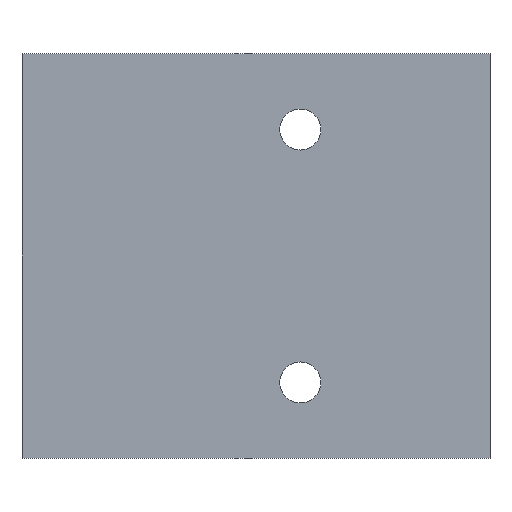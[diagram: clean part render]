
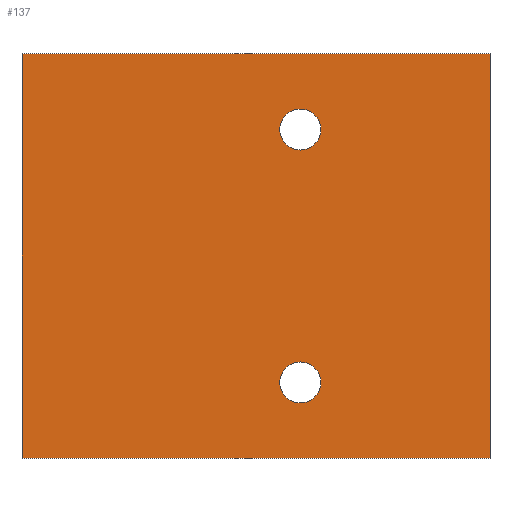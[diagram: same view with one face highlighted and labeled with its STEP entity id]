
A CAD part, front view. The second image highlights one B-rep face of the part: STEP entity #137.
In plain terms, the highlighted planar face has unit normal (0, -1, 0).
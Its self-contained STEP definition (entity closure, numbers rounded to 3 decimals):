
#21 = EDGE_CURVE('',#22,#24,#26,.T.);
#22 = VERTEX_POINT('',#23);
#23 = CARTESIAN_POINT('',(-43.,-38.,-16.));
#24 = VERTEX_POINT('',#25);
#25 = CARTESIAN_POINT('',(-43.,-38.,16.));
#26 = SURFACE_CURVE('',#27,(#31,#43),.PCURVE_S1.);
#27 = LINE('',#28,#29);
#28 = CARTESIAN_POINT('',(-43.,-38.,-16.));
#29 = VECTOR('',#30,1.);
#30 = DIRECTION('',(0.,0.,1.));
#31 = PCURVE('',#32,#37);
#32 = PLANE('',#33);
#33 = AXIS2_PLACEMENT_3D('',#34,#35,#36);
#34 = CARTESIAN_POINT('',(-43.,-38.,-16.));
#35 = DIRECTION('',(-1.,-0.,0.));
#36 = DIRECTION('',(0.,0.,-1.));
#37 = DEFINITIONAL_REPRESENTATION('',(#38),#42);
#38 = LINE('',#39,#40);
#39 = CARTESIAN_POINT('',(-0.,-0.));
#40 = VECTOR('',#41,1.);
#41 = DIRECTION('',(-1.,-0.));
#42 = ( GEOMETRIC_REPRESENTATION_CONTEXT(2)
PARAMETRIC_REPRESENTATION_CONTEXT() REPRESENTATION_CONTEXT('2D SPACE',''
  ) );
#43 = PCURVE('',#44,#49);
#44 = PLANE('',#45);
#45 = AXIS2_PLACEMENT_3D('',#46,#47,#48);
#46 = CARTESIAN_POINT('',(-43.,-38.,-16.));
#47 = DIRECTION('',(-0.,1.,-0.));
#48 = DIRECTION('',(0.,0.,-1.));
#49 = DEFINITIONAL_REPRESENTATION('',(#50),#54);
#50 = LINE('',#51,#52);
#51 = CARTESIAN_POINT('',(-0.,-0.));
#52 = VECTOR('',#53,1.);
#53 = DIRECTION('',(-1.,-0.));
#54 = ( GEOMETRIC_REPRESENTATION_CONTEXT(2)
PARAMETRIC_REPRESENTATION_CONTEXT() REPRESENTATION_CONTEXT('2D SPACE',''
  ) );
#72 = PLANE('',#73);
#73 = AXIS2_PLACEMENT_3D('',#74,#75,#76);
#74 = CARTESIAN_POINT('',(-43.,-38.,-16.));
#75 = DIRECTION('',(0.,0.,1.));
#76 = DIRECTION('',(1.,0.,0.));
#126 = PLANE('',#127);
#127 = AXIS2_PLACEMENT_3D('',#128,#129,#130);
#128 = CARTESIAN_POINT('',(-43.,-38.,16.));
#129 = DIRECTION('',(0.,0.,1.));
#130 = DIRECTION('',(1.,0.,0.));
#137 = ADVANCED_FACE('',(#138,#213,#248),#44,.F.);
#138 = FACE_BOUND('',#139,.T.);
#139 = EDGE_LOOP('',(#140,#170,#191,#192));
#140 = ORIENTED_EDGE('',*,*,#141,.F.);
#141 = EDGE_CURVE('',#142,#144,#146,.T.);
#142 = VERTEX_POINT('',#143);
#143 = CARTESIAN_POINT('',(-80.,-38.,-16.));
#144 = VERTEX_POINT('',#145);
#145 = CARTESIAN_POINT('',(-80.,-38.,16.));
#146 = SURFACE_CURVE('',#147,(#151,#158),.PCURVE_S1.);
#147 = LINE('',#148,#149);
#148 = CARTESIAN_POINT('',(-80.,-38.,-16.));
#149 = VECTOR('',#150,1.);
#150 = DIRECTION('',(-0.,-0.,1.));
#151 = PCURVE('',#44,#152);
#152 = DEFINITIONAL_REPRESENTATION('',(#153),#157);
#153 = LINE('',#154,#155);
#154 = CARTESIAN_POINT('',(-0.,37.));
#155 = VECTOR('',#156,1.);
#156 = DIRECTION('',(-1.,0.));
#157 = ( GEOMETRIC_REPRESENTATION_CONTEXT(2)
PARAMETRIC_REPRESENTATION_CONTEXT() REPRESENTATION_CONTEXT('2D SPACE',''
  ) );
#158 = PCURVE('',#159,#164);
#159 = PLANE('',#160);
#160 = AXIS2_PLACEMENT_3D('',#161,#162,#163);
#161 = CARTESIAN_POINT('',(-80.,-38.,-16.));
#162 = DIRECTION('',(-1.,-0.,-0.));
#163 = DIRECTION('',(0.,0.,-1.));
#164 = DEFINITIONAL_REPRESENTATION('',(#165),#169);
#165 = LINE('',#166,#167);
#166 = CARTESIAN_POINT('',(-0.,-0.));
#167 = VECTOR('',#168,1.);
#168 = DIRECTION('',(-1.,-0.));
#169 = ( GEOMETRIC_REPRESENTATION_CONTEXT(2)
PARAMETRIC_REPRESENTATION_CONTEXT() REPRESENTATION_CONTEXT('2D SPACE',''
  ) );
#170 = ORIENTED_EDGE('',*,*,#171,.F.);
#171 = EDGE_CURVE('',#22,#142,#172,.T.);
#172 = SURFACE_CURVE('',#173,(#177,#184),.PCURVE_S1.);
#173 = LINE('',#174,#175);
#174 = CARTESIAN_POINT('',(-43.,-38.,-16.));
#175 = VECTOR('',#176,1.);
#176 = DIRECTION('',(-1.,-0.,0.));
#177 = PCURVE('',#44,#178);
#178 = DEFINITIONAL_REPRESENTATION('',(#179),#183);
#179 = LINE('',#180,#181);
#180 = CARTESIAN_POINT('',(-0.,-0.));
#181 = VECTOR('',#182,1.);
#182 = DIRECTION('',(-0.,1.));
#183 = ( GEOMETRIC_REPRESENTATION_CONTEXT(2)
PARAMETRIC_REPRESENTATION_CONTEXT() REPRESENTATION_CONTEXT('2D SPACE',''
  ) );
#184 = PCURVE('',#72,#185);
#185 = DEFINITIONAL_REPRESENTATION('',(#186),#190);
#186 = LINE('',#187,#188);
#187 = CARTESIAN_POINT('',(0.,-0.));
#188 = VECTOR('',#189,1.);
#189 = DIRECTION('',(-1.,0.));
#190 = ( GEOMETRIC_REPRESENTATION_CONTEXT(2)
PARAMETRIC_REPRESENTATION_CONTEXT() REPRESENTATION_CONTEXT('2D SPACE',''
  ) );
#191 = ORIENTED_EDGE('',*,*,#21,.T.);
#192 = ORIENTED_EDGE('',*,*,#193,.T.);
#193 = EDGE_CURVE('',#24,#144,#194,.T.);
#194 = SURFACE_CURVE('',#195,(#199,#206),.PCURVE_S1.);
#195 = LINE('',#196,#197);
#196 = CARTESIAN_POINT('',(-43.,-38.,16.));
#197 = VECTOR('',#198,1.);
#198 = DIRECTION('',(-1.,-0.,0.));
#199 = PCURVE('',#44,#200);
#200 = DEFINITIONAL_REPRESENTATION('',(#201),#205);
#201 = LINE('',#202,#203);
#202 = CARTESIAN_POINT('',(-32.,-0.));
#203 = VECTOR('',#204,1.);
#204 = DIRECTION('',(-0.,1.));
#205 = ( GEOMETRIC_REPRESENTATION_CONTEXT(2)
PARAMETRIC_REPRESENTATION_CONTEXT() REPRESENTATION_CONTEXT('2D SPACE',''
  ) );
#206 = PCURVE('',#126,#207);
#207 = DEFINITIONAL_REPRESENTATION('',(#208),#212);
#208 = LINE('',#209,#210);
#209 = CARTESIAN_POINT('',(0.,-0.));
#210 = VECTOR('',#211,1.);
#211 = DIRECTION('',(-1.,0.));
#212 = ( GEOMETRIC_REPRESENTATION_CONTEXT(2)
PARAMETRIC_REPRESENTATION_CONTEXT() REPRESENTATION_CONTEXT('2D SPACE',''
  ) );
#213 = FACE_BOUND('',#214,.T.);
#214 = EDGE_LOOP('',(#215));
#215 = ORIENTED_EDGE('',*,*,#216,.F.);
#216 = EDGE_CURVE('',#217,#217,#219,.T.);
#217 = VERTEX_POINT('',#218);
#218 = CARTESIAN_POINT('',(-58.,-38.,-8.379));
#219 = SURFACE_CURVE('',#220,(#225,#236),.PCURVE_S1.);
#220 = CIRCLE('',#221,1.621);
#221 = AXIS2_PLACEMENT_3D('',#222,#223,#224);
#222 = CARTESIAN_POINT('',(-58.,-38.,-10.));
#223 = DIRECTION('',(0.,-1.,0.));
#224 = DIRECTION('',(-0.,-0.,1.));
#225 = PCURVE('',#44,#226);
#226 = DEFINITIONAL_REPRESENTATION('',(#227),#235);
#227 = ( BOUNDED_CURVE() B_SPLINE_CURVE(2,(#228,#229,#230,#231,#232,#233
,#234),.UNSPECIFIED.,.T.,.F.) B_SPLINE_CURVE_WITH_KNOTS((1,2,2,2,2,1),(
    -2.094,0.,2.094,4.189,6.283,
8.378),.UNSPECIFIED.) CURVE() GEOMETRIC_REPRESENTATION_ITEM()
RATIONAL_B_SPLINE_CURVE((1.,0.5,1.,0.5,1.,0.5,1.)) REPRESENTATION_ITEM(
  '') );
#228 = CARTESIAN_POINT('',(-7.621,15.));
#229 = CARTESIAN_POINT('',(-7.621,17.808));
#230 = CARTESIAN_POINT('',(-5.19,16.404));
#231 = CARTESIAN_POINT('',(-2.758,15.));
#232 = CARTESIAN_POINT('',(-5.19,13.596));
#233 = CARTESIAN_POINT('',(-7.621,12.192));
#234 = CARTESIAN_POINT('',(-7.621,15.));
#235 = ( GEOMETRIC_REPRESENTATION_CONTEXT(2)
PARAMETRIC_REPRESENTATION_CONTEXT() REPRESENTATION_CONTEXT('2D SPACE',''
  ) );
#236 = PCURVE('',#237,#242);
#237 = CYLINDRICAL_SURFACE('',#238,1.621);
#238 = AXIS2_PLACEMENT_3D('',#239,#240,#241);
#239 = CARTESIAN_POINT('',(-58.,-39.,-10.));
#240 = DIRECTION('',(-0.,1.,-0.));
#241 = DIRECTION('',(-0.,-0.,1.));
#242 = DEFINITIONAL_REPRESENTATION('',(#243),#247);
#243 = LINE('',#244,#245);
#244 = CARTESIAN_POINT('',(-0.,1.));
#245 = VECTOR('',#246,1.);
#246 = DIRECTION('',(-1.,0.));
#247 = ( GEOMETRIC_REPRESENTATION_CONTEXT(2)
PARAMETRIC_REPRESENTATION_CONTEXT() REPRESENTATION_CONTEXT('2D SPACE',''
  ) );
#248 = FACE_BOUND('',#249,.T.);
#249 = EDGE_LOOP('',(#250));
#250 = ORIENTED_EDGE('',*,*,#251,.F.);
#251 = EDGE_CURVE('',#252,#252,#254,.T.);
#252 = VERTEX_POINT('',#253);
#253 = CARTESIAN_POINT('',(-58.,-38.,11.621));
#254 = SURFACE_CURVE('',#255,(#260,#271),.PCURVE_S1.);
#255 = CIRCLE('',#256,1.621);
#256 = AXIS2_PLACEMENT_3D('',#257,#258,#259);
#257 = CARTESIAN_POINT('',(-58.,-38.,10.));
#258 = DIRECTION('',(0.,-1.,0.));
#259 = DIRECTION('',(-0.,-0.,1.));
#260 = PCURVE('',#44,#261);
#261 = DEFINITIONAL_REPRESENTATION('',(#262),#270);
#262 = ( BOUNDED_CURVE() B_SPLINE_CURVE(2,(#263,#264,#265,#266,#267,#268
,#269),.UNSPECIFIED.,.T.,.F.) B_SPLINE_CURVE_WITH_KNOTS((1,2,2,2,2,1),(
    -2.094,0.,2.094,4.189,6.283,
8.378),.UNSPECIFIED.) CURVE() GEOMETRIC_REPRESENTATION_ITEM()
RATIONAL_B_SPLINE_CURVE((1.,0.5,1.,0.5,1.,0.5,1.)) REPRESENTATION_ITEM(
  '') );
#263 = CARTESIAN_POINT('',(-27.621,15.));
#264 = CARTESIAN_POINT('',(-27.621,17.808));
#265 = CARTESIAN_POINT('',(-25.19,16.404));
#266 = CARTESIAN_POINT('',(-22.758,15.));
#267 = CARTESIAN_POINT('',(-25.19,13.596));
#268 = CARTESIAN_POINT('',(-27.621,12.192));
#269 = CARTESIAN_POINT('',(-27.621,15.));
#270 = ( GEOMETRIC_REPRESENTATION_CONTEXT(2)
PARAMETRIC_REPRESENTATION_CONTEXT() REPRESENTATION_CONTEXT('2D SPACE',''
  ) );
#271 = PCURVE('',#272,#277);
#272 = CYLINDRICAL_SURFACE('',#273,1.621);
#273 = AXIS2_PLACEMENT_3D('',#274,#275,#276);
#274 = CARTESIAN_POINT('',(-58.,-39.,10.));
#275 = DIRECTION('',(-0.,1.,-0.));
#276 = DIRECTION('',(-0.,-0.,1.));
#277 = DEFINITIONAL_REPRESENTATION('',(#278),#282);
#278 = LINE('',#279,#280);
#279 = CARTESIAN_POINT('',(-0.,1.));
#280 = VECTOR('',#281,1.);
#281 = DIRECTION('',(-1.,0.));
#282 = ( GEOMETRIC_REPRESENTATION_CONTEXT(2)
PARAMETRIC_REPRESENTATION_CONTEXT() REPRESENTATION_CONTEXT('2D SPACE',''
  ) );
